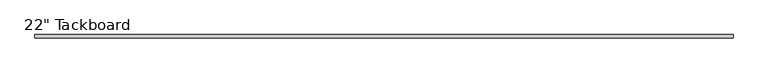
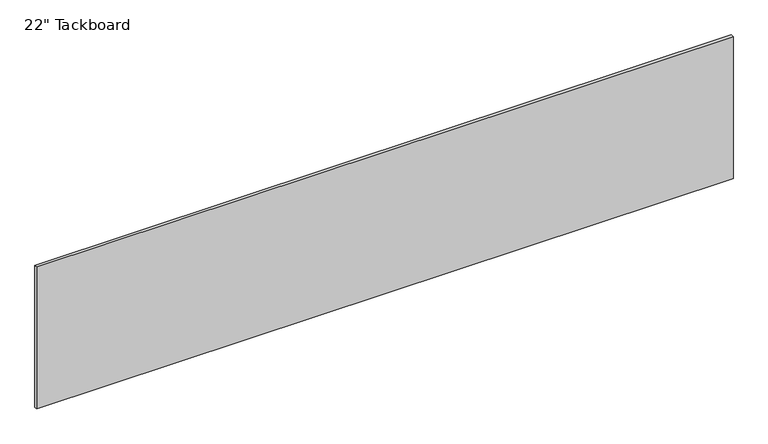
"""IFC4 building model written with IfcOpenShell, lengths in millimetres: furniture geometry."""

from ifc_helpers import new_model, si_unit, frame, origin, place, context, project, spatial, polyline, outline, extrude, source, transform, mapped, element, save


def furniture_b40d51e7(model_context):
    return source(origin(), model_context, "Body", "SweptSolid", [
        extrude(outline(polyline([(1460.5, 0.0), (1460.5, -11.90625), (-1130.3, -11.90625), (-1130.3, 0.0), (1460.5, 0.0)])), frame((0.0, 0.0, 762.0), z_axis=(0.0, 0.0, 1.0), x_axis=(1.0, 0.0, 0.0)), (0.0, 0.0, 1.0), 558.8),
    ])


if __name__ == "__main__":
    model = new_model("IFC4")
    model_context = context("Model", 3, world=origin())
    ifc_project = project(units=[si_unit("LENGTHUNIT", "METRE", prefix="MILLI")], contexts=[model_context])
    site = spatial("IfcSite", under=ifc_project)
    building = spatial("IfcBuilding", under=site)
    placement = place(None, origin())
    furniture_shape = furniture_b40d51e7(model_context)
    element("IfcFurniture", 1, ObjectType="Haworth_Masters_Tackboard : 22\" Tackboard", at=placement, inside=building, context=model_context, shape_type="MappedRepresentation", body=[
        mapped(furniture_shape, transform((0.0, 0.0, 0.0), x_axis=(1.0, 0.0, 0.0), y_axis=(0.0, 1.0, 0.0), z_axis=(0.0, 0.0, 1.0))),
    ])
    save(model, "model.ifc")
